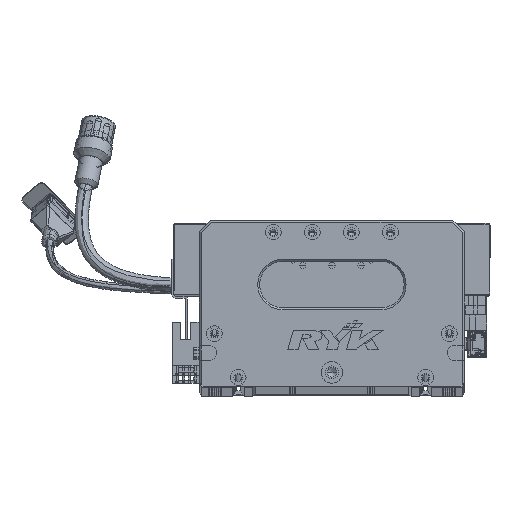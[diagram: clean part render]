
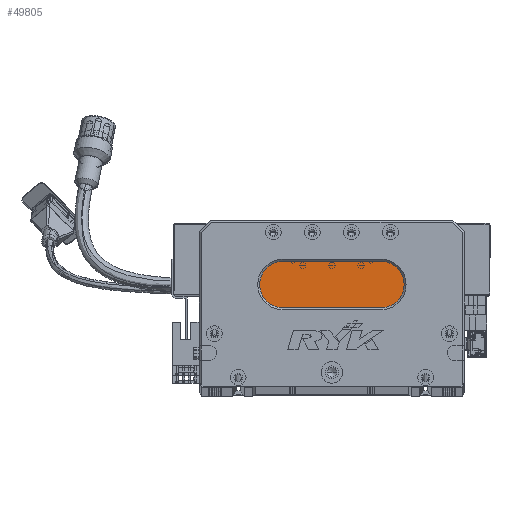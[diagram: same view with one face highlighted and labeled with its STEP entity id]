
A CAD part, top view. The second image highlights one B-rep face of the part: STEP entity #49805.
In plain terms, the highlighted planar face has unit normal (0, 0, 1) as drawn and (0, 0, -1) by its records, which use the part's own axes.
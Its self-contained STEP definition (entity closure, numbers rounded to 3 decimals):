
#1463 = CARTESIAN_POINT ( 'NONE',  ( 31., 52., 13. ) ) ;
#1600 = EDGE_CURVE ( 'NONE', #82142, #59204, #94931, .T. ) ;
#2146 = CARTESIAN_POINT ( 'NONE',  ( 43., 64., 13. ) ) ;
#6932 = CARTESIAN_POINT ( 'NONE',  ( 43., 40., 13. ) ) ;
#10863 = CIRCLE ( 'NONE', #25389, 12. ) ;
#11220 = CARTESIAN_POINT ( 'NONE',  ( 43., 52., 13. ) ) ;
#15011 = EDGE_CURVE ( 'NONE', #19914, #85921, #134648, .T. ) ;
#19914 = VERTEX_POINT ( 'NONE', #41203 ) ;
#21983 = VECTOR ( 'NONE', #79908, 1000. ) ;
#22950 = DIRECTION ( 'NONE',  ( 0., 0., -1. ) ) ;
#24143 = ORIENTED_EDGE ( 'NONE', *, *, #122728, .T. ) ;
#25389 = AXIS2_PLACEMENT_3D ( 'NONE', #111768, #80657, #80209 ) ;
#28797 = ORIENTED_EDGE ( 'NONE', *, *, #1600, .T. ) ;
#29848 = DIRECTION ( 'NONE',  ( -1., 0., 0. ) ) ;
#33074 = CARTESIAN_POINT ( 'NONE',  ( 93., 52., 13. ) ) ;
#33440 = LINE ( 'NONE', #130755, #21983 ) ;
#34263 = ORIENTED_EDGE ( 'NONE', *, *, #105850, .T. ) ;
#38582 = CARTESIAN_POINT ( 'NONE',  ( 93., 52., 13. ) ) ;
#41203 = CARTESIAN_POINT ( 'NONE',  ( 93., 64., 13. ) ) ;
#45090 = FACE_OUTER_BOUND ( 'NONE', #128006, .T. ) ;
#49805 = ADVANCED_FACE ( 'NONE', ( #45090 ), #117397, .T. ) ;
#51882 = EDGE_CURVE ( 'NONE', #93967, #19914, #33440, .T. ) ;
#59204 = VERTEX_POINT ( 'NONE', #1463 ) ;
#61304 = AXIS2_PLACEMENT_3D ( 'NONE', #33074, #22950, #96769 ) ;
#74622 = CARTESIAN_POINT ( 'NONE',  ( 93., 40., 13. ) ) ;
#76516 = CARTESIAN_POINT ( 'NONE',  ( 93., 40., 13. ) ) ;
#79217 = ORIENTED_EDGE ( 'NONE', *, *, #51882, .T. ) ;
#79908 = DIRECTION ( 'NONE',  ( 1., 0., 0. ) ) ;
#80209 = DIRECTION ( 'NONE',  ( -1., 0., 0. ) ) ;
#80657 = DIRECTION ( 'NONE',  ( 0., 0., -1. ) ) ;
#82142 = VERTEX_POINT ( 'NONE', #6932 ) ;
#84628 = DIRECTION ( 'NONE',  ( 0., 0., -1. ) ) ;
#85921 = VERTEX_POINT ( 'NONE', #76516 ) ;
#86033 = DIRECTION ( 'NONE',  ( -1., 0., 0. ) ) ;
#90514 = AXIS2_PLACEMENT_3D ( 'NONE', #11220, #84628, #105681 ) ;
#93967 = VERTEX_POINT ( 'NONE', #2146 ) ;
#94931 = CIRCLE ( 'NONE', #90514, 12. ) ;
#96769 = DIRECTION ( 'NONE',  ( -1., 0., 0. ) ) ;
#99538 = AXIS2_PLACEMENT_3D ( 'NONE', #38582, #111934, #29848 ) ;
#100313 = VECTOR ( 'NONE', #86033, 1000. ) ;
#105681 = DIRECTION ( 'NONE',  ( -1., 0., 0. ) ) ;
#105850 = EDGE_CURVE ( 'NONE', #85921, #82142, #129910, .T. ) ;
#111768 = CARTESIAN_POINT ( 'NONE',  ( 43., 52., 13. ) ) ;
#111934 = DIRECTION ( 'NONE',  ( 0., 0., -1. ) ) ;
#117397 = PLANE ( 'NONE',  #61304 ) ;
#122728 = EDGE_CURVE ( 'NONE', #59204, #93967, #10863, .T. ) ;
#128006 = EDGE_LOOP ( 'NONE', ( #135136, #34263, #28797, #24143, #79217 ) ) ;
#129910 = LINE ( 'NONE', #74622, #100313 ) ;
#130755 = CARTESIAN_POINT ( 'NONE',  ( 93., 64., 13. ) ) ;
#134648 = CIRCLE ( 'NONE', #99538, 12. ) ;
#135136 = ORIENTED_EDGE ( 'NONE', *, *, #15011, .T. ) ;
